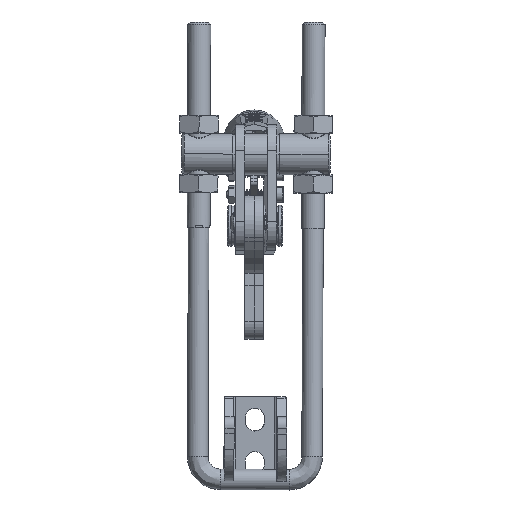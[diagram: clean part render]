
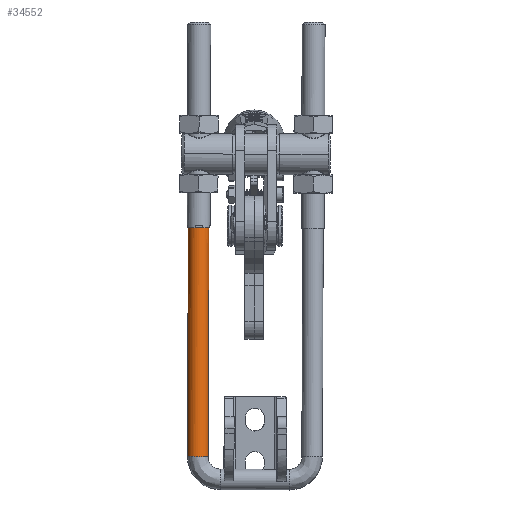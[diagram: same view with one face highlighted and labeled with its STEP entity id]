
A CAD part, left-side view. The second image highlights one B-rep face of the part: STEP entity #34552.
In plain terms, the highlighted cylindrical face has radius 4.5 mm (diameter 9 mm), a partial arc.
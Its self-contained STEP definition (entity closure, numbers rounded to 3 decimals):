
#253 = AXIS2_PLACEMENT_3D ( 'NONE', #20331, #38759, #2421 ) ;
#599 = CARTESIAN_POINT ( 'NONE',  ( 10., 0., -20.5 ) ) ;
#1532 = CIRCLE ( 'NONE', #35582, 4.5 ) ;
#2421 = DIRECTION ( 'NONE',  ( 0., 0., -1. ) ) ;
#2483 = CARTESIAN_POINT ( 'NONE',  ( 10., 0., -29.5 ) ) ;
#2889 = DIRECTION ( 'NONE',  ( 1., 0., 0. ) ) ;
#3615 = CARTESIAN_POINT ( 'NONE',  ( 110., 0., -20.5 ) ) ;
#4447 = ORIENTED_EDGE ( 'NONE', *, *, #17765, .F. ) ;
#5153 = VERTEX_POINT ( 'NONE', #2483 ) ;
#6839 = VERTEX_POINT ( 'NONE', #3615 ) ;
#9278 = VECTOR ( 'NONE', #13057, 1000. ) ;
#9687 = LINE ( 'NONE', #38545, #9278 ) ;
#10116 = CARTESIAN_POINT ( 'NONE',  ( 10., 0., -25. ) ) ;
#12610 = ORIENTED_EDGE ( 'NONE', *, *, #44014, .T. ) ;
#13057 = DIRECTION ( 'NONE',  ( 1., 0., 0. ) ) ;
#14163 = CARTESIAN_POINT ( 'NONE',  ( 110., 0., -25. ) ) ;
#16252 = ORIENTED_EDGE ( 'NONE', *, *, #19441, .T. ) ;
#17643 = DIRECTION ( 'NONE',  ( 1., 0., 0. ) ) ;
#17765 = EDGE_CURVE ( 'NONE', #5153, #18810, #9687, .T. ) ;
#18810 = VERTEX_POINT ( 'NONE', #21050 ) ;
#19441 = EDGE_CURVE ( 'NONE', #6839, #18810, #1532, .T. ) ;
#20331 = CARTESIAN_POINT ( 'NONE',  ( 10., 0., -25. ) ) ;
#21050 = CARTESIAN_POINT ( 'NONE',  ( 110., 0., -29.5 ) ) ;
#25365 = DIRECTION ( 'NONE',  ( 0., 0., -1. ) ) ;
#26541 = CIRCLE ( 'NONE', #253, 4.5 ) ;
#28720 = AXIS2_PLACEMENT_3D ( 'NONE', #10116, #17643, #25365 ) ;
#28733 = DIRECTION ( 'NONE',  ( 0., 0., -1. ) ) ;
#28767 = EDGE_CURVE ( 'NONE', #5153, #40907, #26541, .T. ) ;
#32200 = FACE_OUTER_BOUND ( 'NONE', #41011, .T. ) ;
#34552 = ADVANCED_FACE ( 'NONE', ( #32200 ), #46972, .T. ) ;
#35582 = AXIS2_PLACEMENT_3D ( 'NONE', #14163, #35774, #28733 ) ;
#35774 = DIRECTION ( 'NONE',  ( -1., 0., 0. ) ) ;
#38545 = CARTESIAN_POINT ( 'NONE',  ( 10., 0., -29.5 ) ) ;
#38759 = DIRECTION ( 'NONE',  ( 1., 0., 0. ) ) ;
#39714 = CARTESIAN_POINT ( 'NONE',  ( 10., 0., -20.5 ) ) ;
#40907 = VERTEX_POINT ( 'NONE', #599 ) ;
#41011 = EDGE_LOOP ( 'NONE', ( #47528, #12610, #16252, #4447 ) ) ;
#42369 = VECTOR ( 'NONE', #2889, 1000. ) ;
#43819 = LINE ( 'NONE', #39714, #42369 ) ;
#44014 = EDGE_CURVE ( 'NONE', #40907, #6839, #43819, .T. ) ;
#46972 = CYLINDRICAL_SURFACE ( 'NONE', #28720, 4.5 ) ;
#47528 = ORIENTED_EDGE ( 'NONE', *, *, #28767, .T. ) ;
